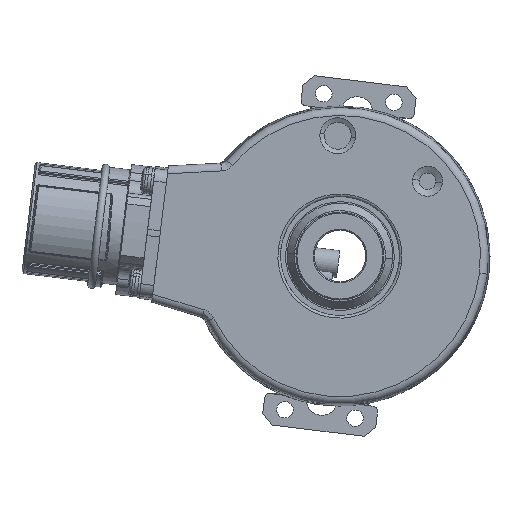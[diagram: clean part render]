
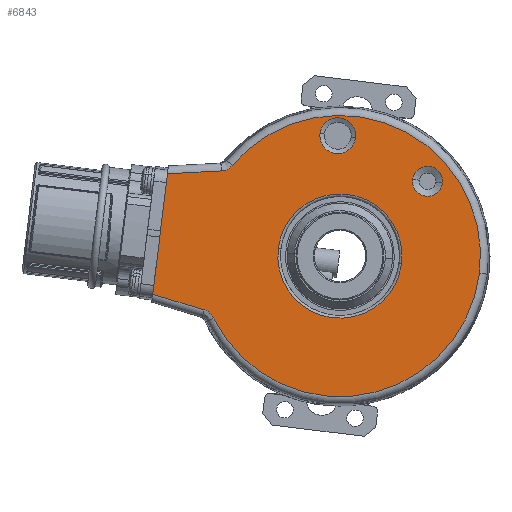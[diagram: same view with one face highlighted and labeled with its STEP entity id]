
A CAD part, left-side view. The second image highlights one B-rep face of the part: STEP entity #6843.
In plain terms, the highlighted planar face has unit normal (-1, 0, 0).
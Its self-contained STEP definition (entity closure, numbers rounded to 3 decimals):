
#5105 = AXIS2_PLACEMENT_3D ( 'NONE', #26198, #26199, #26200 ) ;
#6843 = ADVANCED_FACE ( 'NONE', ( #38037, #25173, #25175, #25177 ), #24633, .F. ) ;
#7064 = EDGE_CURVE ( 'NONE', #21484, #21483, #19180, .T. ) ;
#7068 = EDGE_CURVE ( 'NONE', #21491, #21489, #19182, .T. ) ;
#7198 = EDGE_CURVE ( 'NONE', #21672, #21674, #26754, .T. ) ;
#7215 = EDGE_CURVE ( 'NONE', #21694, #21692, #26761, .T. ) ;
#7296 = EDGE_CURVE ( 'NONE', #21976, #22048, #26572, .T. ) ;
#7297 = EDGE_CURVE ( 'NONE', #21483, #21484, #26798, .T. ) ;
#7298 = EDGE_CURVE ( 'NONE', #21489, #21491, #26799, .T. ) ;
#7299 = EDGE_CURVE ( 'NONE', #21692, #21694, #26800, .T. ) ;
#7300 = EDGE_CURVE ( 'NONE', #21976, #21674, #23929, .T. ) ;
#7301 = EDGE_CURVE ( 'NONE', #22142, #22048, #26594, .T. ) ;
#7302 = EDGE_CURVE ( 'NONE', #22142, #22147, #26597, .T. ) ;
#7303 = EDGE_CURVE ( 'NONE', #21979, #22147, #23928, .T. ) ;
#7304 = EDGE_CURVE ( 'NONE', #21979, #21672, #26801, .T. ) ;
#8015 = ORIENTED_EDGE ( 'NONE', *, *, #7064, .T. ) ;
#8016 = ORIENTED_EDGE ( 'NONE', *, *, #7297, .T. ) ;
#8017 = ORIENTED_EDGE ( 'NONE', *, *, #7298, .T. ) ;
#8018 = ORIENTED_EDGE ( 'NONE', *, *, #7068, .T. ) ;
#8019 = ORIENTED_EDGE ( 'NONE', *, *, #7299, .T. ) ;
#8020 = ORIENTED_EDGE ( 'NONE', *, *, #7215, .T. ) ;
#8021 = ORIENTED_EDGE ( 'NONE', *, *, #7300, .F. ) ;
#8022 = ORIENTED_EDGE ( 'NONE', *, *, #7301, .F. ) ;
#8023 = ORIENTED_EDGE ( 'NONE', *, *, #7296, .T. ) ;
#8024 = ORIENTED_EDGE ( 'NONE', *, *, #7302, .T. ) ;
#8025 = ORIENTED_EDGE ( 'NONE', *, *, #7303, .F. ) ;
#8026 = ORIENTED_EDGE ( 'NONE', *, *, #7304, .T. ) ;
#8027 = ORIENTED_EDGE ( 'NONE', *, *, #7198, .T. ) ;
#11596 = AXIS2_PLACEMENT_3D ( 'NONE', #24634, #24635, #24636 ) ;
#19180 = CIRCLE ( 'NONE', #25408, 2.899 ) ;
#19182 = CIRCLE ( 'NONE', #25412, 3.466 ) ;
#21483 = VERTEX_POINT ( 'NONE', #53826 ) ;
#21484 = VERTEX_POINT ( 'NONE', #53827 ) ;
#21489 = VERTEX_POINT ( 'NONE', #53832 ) ;
#21491 = VERTEX_POINT ( 'NONE', #53834 ) ;
#21672 = VERTEX_POINT ( 'NONE', #54015 ) ;
#21674 = VERTEX_POINT ( 'NONE', #54017 ) ;
#21692 = VERTEX_POINT ( 'NONE', #54035 ) ;
#21694 = VERTEX_POINT ( 'NONE', #54037 ) ;
#21976 = VERTEX_POINT ( 'NONE', #54319 ) ;
#21979 = VERTEX_POINT ( 'NONE', #54322 ) ;
#22048 = VERTEX_POINT ( 'NONE', #54391 ) ;
#22142 = VERTEX_POINT ( 'NONE', #54485 ) ;
#22147 = VERTEX_POINT ( 'NONE', #54490 ) ;
#22447 = EDGE_LOOP ( 'NONE', ( #8015, #8016 ) ) ;
#22457 = EDGE_LOOP ( 'NONE', ( #8018, #8017 ) ) ;
#22471 = EDGE_LOOP ( 'NONE', ( #8020, #8019 ) ) ;
#22619 = EDGE_LOOP ( 'NONE', ( #8021, #8023, #8022, #8024, #8025, #8026, #8027 ) ) ;
#23928 = B_SPLINE_CURVE_WITH_KNOTS ( 'NONE', 3,
 ( #26593, #26600, #26601, #26602, #26603, #26604, #26605, #26606, #26607, #26608 ),
 .UNSPECIFIED., .F., .F.,
 ( 4, 2, 2, 2, 4 ),
 ( 0., 0.001, 0.001, 0.002, 0.002 ),
 .UNSPECIFIED. ) ;
#23929 = B_SPLINE_CURVE_WITH_KNOTS ( 'NONE', 3,
 ( #26583, #26584, #26585, #26586, #26587, #26588, #26589, #26590, #26591, #26592 ),
 .UNSPECIFIED., .F., .F.,
 ( 4, 2, 2, 2, 4 ),
 ( 0., 0.001, 0.001, 0.002, 0.002 ),
 .UNSPECIFIED. ) ;
#24633 = PLANE ( 'NONE',  #11596 ) ;
#24634 = CARTESIAN_POINT ( 'NONE',  ( -19., 0., 0. ) ) ;
#24635 = DIRECTION ( 'NONE',  ( 1., 0., 0. ) ) ;
#24636 = DIRECTION ( 'NONE',  ( 0., -0.993, -0.122 ) ) ;
#25173 = FACE_BOUND ( 'NONE', #22457, .T. ) ;
#25175 = FACE_BOUND ( 'NONE', #22471, .T. ) ;
#25177 = FACE_OUTER_BOUND ( 'NONE', #22619, .T. ) ;
#25408 = AXIS2_PLACEMENT_3D ( 'NONE', #25712, #25713, #25714 ) ;
#25412 = AXIS2_PLACEMENT_3D ( 'NONE', #25724, #25725, #25726 ) ;
#25712 = CARTESIAN_POINT ( 'NONE',  ( -19., -16.919, 14.45 ) ) ;
#25713 = DIRECTION ( 'NONE',  ( 1., 0., 0. ) ) ;
#25714 = DIRECTION ( 'NONE',  ( 0., -0.993, -0.122 ) ) ;
#25724 = CARTESIAN_POINT ( 'NONE',  ( -19., 0.406, 23.246 ) ) ;
#25725 = DIRECTION ( 'NONE',  ( 1., 0., 0. ) ) ;
#25726 = DIRECTION ( 'NONE',  ( 0., -0.993, -0.122 ) ) ;
#26198 = CARTESIAN_POINT ( 'NONE',  ( -19., 0., 0. ) ) ;
#26199 = DIRECTION ( 'NONE',  ( -1., 0., 0. ) ) ;
#26200 = DIRECTION ( 'NONE',  ( 0., -0.993, -0.122 ) ) ;
#26249 = CARTESIAN_POINT ( 'NONE',  ( -19., 0., 0. ) ) ;
#26250 = DIRECTION ( 'NONE',  ( 1., 0., 0. ) ) ;
#26251 = DIRECTION ( 'NONE',  ( 0., -0.993, -0.122 ) ) ;
#26571 = CARTESIAN_POINT ( 'NONE',  ( -19., -16.919, 14.45 ) ) ;
#26572 = LINE ( 'NONE', #26573, #28538 ) ;
#26573 = CARTESIAN_POINT ( 'NONE',  ( -19., 33.046, 15.919 ) ) ;
#26574 = DIRECTION ( 'NONE',  ( 0., 0.999, -0.052 ) ) ;
#26575 = DIRECTION ( 'NONE',  ( 1., 0., 0. ) ) ;
#26576 = DIRECTION ( 'NONE',  ( 0., -0.993, -0.122 ) ) ;
#26577 = CARTESIAN_POINT ( 'NONE',  ( -19., 0.406, 23.246 ) ) ;
#26578 = DIRECTION ( 'NONE',  ( 1., 0., 0. ) ) ;
#26579 = DIRECTION ( 'NONE',  ( 0., -0.993, -0.122 ) ) ;
#26580 = CARTESIAN_POINT ( 'NONE',  ( -19., 0., 0. ) ) ;
#26581 = DIRECTION ( 'NONE',  ( 1., 0., 0. ) ) ;
#26582 = DIRECTION ( 'NONE',  ( 0., -0.993, -0.122 ) ) ;
#26583 = CARTESIAN_POINT ( 'NONE',  ( -19., 22.914, 16.45 ) ) ;
#26584 = CARTESIAN_POINT ( 'NONE',  ( -19., 22.708, 16.461 ) ) ;
#26585 = CARTESIAN_POINT ( 'NONE',  ( -19., 22.503, 16.493 ) ) ;
#26586 = CARTESIAN_POINT ( 'NONE',  ( -19., 22.108, 16.597 ) ) ;
#26587 = CARTESIAN_POINT ( 'NONE',  ( -19., 21.917, 16.669 ) ) ;
#26588 = CARTESIAN_POINT ( 'NONE',  ( -19., 21.552, 16.851 ) ) ;
#26589 = CARTESIAN_POINT ( 'NONE',  ( -19., 21.376, 16.962 ) ) ;
#26590 = CARTESIAN_POINT ( 'NONE',  ( -19., 21.056, 17.213 ) ) ;
#26591 = CARTESIAN_POINT ( 'NONE',  ( -19., 20.91, 17.355 ) ) ;
#26592 = CARTESIAN_POINT ( 'NONE',  ( -19., 20.777, 17.512 ) ) ;
#26593 = CARTESIAN_POINT ( 'NONE',  ( -19., 24.396, -11.966 ) ) ;
#26594 = LINE ( 'NONE', #26595, #28541 ) ;
#26595 = CARTESIAN_POINT ( 'NONE',  ( -19., 36.354, -8.886 ) ) ;
#26596 = DIRECTION ( 'NONE',  ( 0., -0.122, 0.993 ) ) ;
#26597 = LINE ( 'NONE', #26598, #28543 ) ;
#26598 = CARTESIAN_POINT ( 'NONE',  ( -19., 25.556, -10.618 ) ) ;
#26599 = DIRECTION ( 'NONE',  ( 0., -0.956, -0.292 ) ) ;
#26600 = CARTESIAN_POINT ( 'NONE',  ( -19., 24.487, -11.781 ) ) ;
#26601 = CARTESIAN_POINT ( 'NONE',  ( -19., 24.597, -11.605 ) ) ;
#26602 = CARTESIAN_POINT ( 'NONE',  ( -19., 24.848, -11.282 ) ) ;
#26603 = CARTESIAN_POINT ( 'NONE',  ( -19., 24.989, -11.135 ) ) ;
#26604 = CARTESIAN_POINT ( 'NONE',  ( -19., 25.3, -10.87 ) ) ;
#26605 = CARTESIAN_POINT ( 'NONE',  ( -19., 25.471, -10.753 ) ) ;
#26606 = CARTESIAN_POINT ( 'NONE',  ( -19., 25.828, -10.557 ) ) ;
#26607 = CARTESIAN_POINT ( 'NONE',  ( -19., 26.016, -10.478 ) ) ;
#26608 = CARTESIAN_POINT ( 'NONE',  ( -19., 26.213, -10.418 ) ) ;
#26609 = CARTESIAN_POINT ( 'NONE',  ( -19., 0., 0. ) ) ;
#26610 = DIRECTION ( 'NONE',  ( -1., 0., 0. ) ) ;
#26611 = DIRECTION ( 'NONE',  ( 0., -0.993, -0.122 ) ) ;
#26754 = CIRCLE ( 'NONE', #5105, 27.173 ) ;
#26761 = CIRCLE ( 'NONE', #28479, 12. ) ;
#26798 = CIRCLE ( 'NONE', #28528, 2.899 ) ;
#26799 = CIRCLE ( 'NONE', #28535, 3.466 ) ;
#26800 = CIRCLE ( 'NONE', #28536, 12. ) ;
#26801 = CIRCLE ( 'NONE', #28542, 27.173 ) ;
#28479 = AXIS2_PLACEMENT_3D ( 'NONE', #26249, #26250, #26251 ) ;
#28528 = AXIS2_PLACEMENT_3D ( 'NONE', #26571, #26575, #26576 ) ;
#28535 = AXIS2_PLACEMENT_3D ( 'NONE', #26577, #26578, #26579 ) ;
#28536 = AXIS2_PLACEMENT_3D ( 'NONE', #26580, #26581, #26582 ) ;
#28538 = VECTOR ( 'NONE', #26574, 1000. ) ;
#28541 = VECTOR ( 'NONE', #26596, 1000. ) ;
#28542 = AXIS2_PLACEMENT_3D ( 'NONE', #26609, #26610, #26611 ) ;
#28543 = VECTOR ( 'NONE', #26599, 1000. ) ;
#38037 = FACE_BOUND ( 'NONE', #22447, .T. ) ;
#53826 = CARTESIAN_POINT ( 'NONE',  ( -19., -19.796, 14.097 ) ) ;
#53827 = CARTESIAN_POINT ( 'NONE',  ( -19., -14.042, 14.804 ) ) ;
#53832 = CARTESIAN_POINT ( 'NONE',  ( -19., -3.034, 22.824 ) ) ;
#53834 = CARTESIAN_POINT ( 'NONE',  ( -19., 3.846, 23.669 ) ) ;
#54015 = CARTESIAN_POINT ( 'NONE',  ( -19., -26.97, -3.312 ) ) ;
#54017 = CARTESIAN_POINT ( 'NONE',  ( -19., 20.777, 17.512 ) ) ;
#54035 = CARTESIAN_POINT ( 'NONE',  ( -19., 11.911, 1.462 ) ) ;
#54037 = CARTESIAN_POINT ( 'NONE',  ( -19., -11.911, -1.462 ) ) ;
#54319 = CARTESIAN_POINT ( 'NONE',  ( -19., 22.914, 16.45 ) ) ;
#54322 = CARTESIAN_POINT ( 'NONE',  ( -19., 24.396, -11.966 ) ) ;
#54391 = CARTESIAN_POINT ( 'NONE',  ( -19., 33.31, 15.905 ) ) ;
#54485 = CARTESIAN_POINT ( 'NONE',  ( -19., 36.168, -7.374 ) ) ;
#54490 = CARTESIAN_POINT ( 'NONE',  ( -19., 26.213, -10.418 ) ) ;
